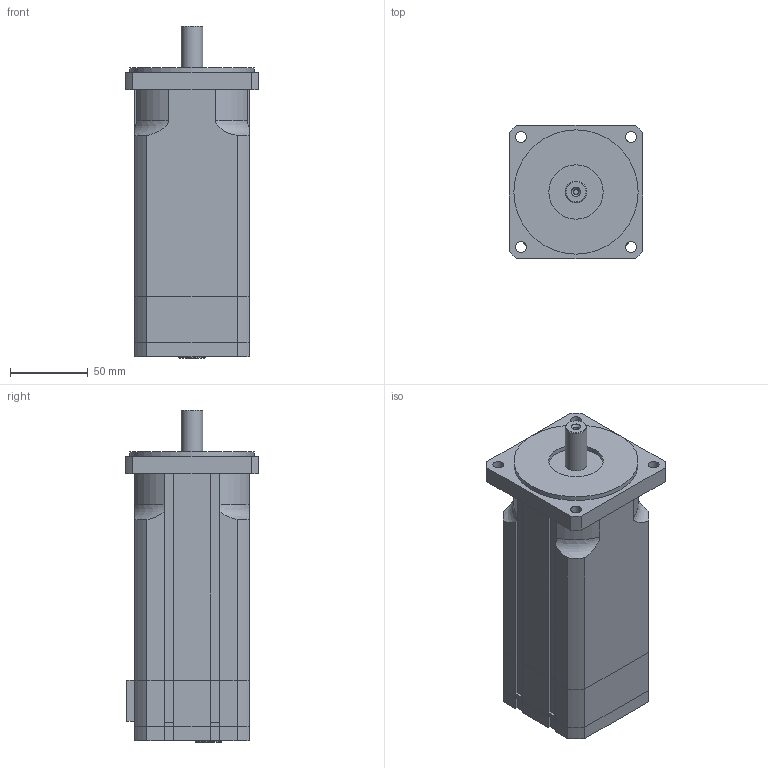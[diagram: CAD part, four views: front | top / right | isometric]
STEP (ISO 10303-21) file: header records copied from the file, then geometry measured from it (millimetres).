
FILE_DESCRIPTION(/* description */ ('Alibre Inc.'),/* implementation_level */ '2;1');
FILE_NAME(/* name */ 'export0',/* time_stamp */ '2011-09-09T09:09:53+02:00',/* author */ (''),/* organization */ (''),/* preprocessor_version */ 'ST-DEVELOPER v12',/* originating_system */ 'Alibre',/* authorisation */ '');
FILE_SCHEMA (('ALIBRE_SCHEMA','CONFIG_CONTROL_DESIGN'));
Length unit declared in the file: millimetre
Products named in the file (4): ID_1
Bounding box: 86 x 86 x 213.77 mm (x, y, z)
Volume: 1184486.1 mm3; surface area: 101443.8 mm2
Topology: 3 solids, 4 shells, 1373 faces, 3376 edges, 2052 vertices
Faces by surface type: bspline 508, plane 364, cylinder 339, torus 86, cone 50, sphere 26
Full cylindrical faces by diameter (mm): 1 x21, 1.5 x1, 1.8 x2, 3.2 x4, 4 x1, 7.5 x1, 8 x1, 11.75 x1, 14 x1, 16.2 x1, 16.95 x1, 17.025 x1, 18.8 x1, 19.8 x1, 20 x1, 22.765 x1, 35 x1, 80 x1
Entity records: 146410 total; most frequent: CARTESIAN_POINT 83857, ORIENTED_EDGE 12692, DIRECTION 9768, EDGE_CURVE 6346, AXIS2_PLACEMENT_3D 4099, VERTEX_POINT 4032, EDGE_LOOP 3244, FACE_BOUND 3244
